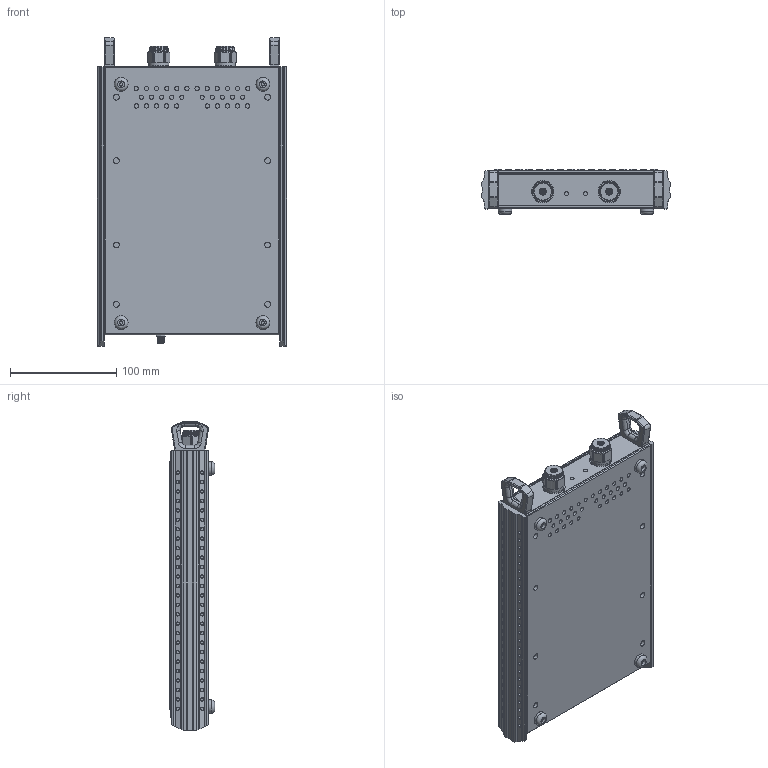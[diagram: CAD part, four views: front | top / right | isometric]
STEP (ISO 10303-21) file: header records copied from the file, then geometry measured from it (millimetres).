
FILE_DESCRIPTION (( 'STEP AP214' ), '1' );
FILE_NAME ('VNA400 2025-04021.STEP', '2025-04-21T18:38:03', ( '' ), ( '' ), 'SwSTEP 2.0', 'SolidWorks 2023', '' );
FILE_SCHEMA (( 'AUTOMOTIVE_DESIGN' ));
Products named in the file (1): VNA400 2025-04021
Bounding box: 178.09 x 42.67 x 290.26 mm (x, y, z)
Surface area: 269327.3 mm2 (no closed solid volume)
Topology: 0 solids, 29 shells, 1031 faces, 2997 edges, 2010 vertices
Faces by surface type: cylinder 328, plane 284, cone 249, bspline 118, torus 52
Full cylindrical faces by diameter (mm): 1.27 x1, 2.286 x2, 3.175 x4, 3.969 x32, 4.089 x1, 4.674 x1, 5.385 x1, 5.558 x8, 6.35 x4, 10.922 x1, 12.7 x4, 19.05 x4, 21.082 x2
Entity records: 67585 total; most frequent: CARTESIAN_POINT 44401, ORIENTED_EDGE 4361, DIRECTION 4316, EDGE_CURVE 2469, VERTEX_POINT 1864, AXIS2_PLACEMENT_3D 1717, EDGE_LOOP 1626, FACE_OUTER_BOUND 1204
